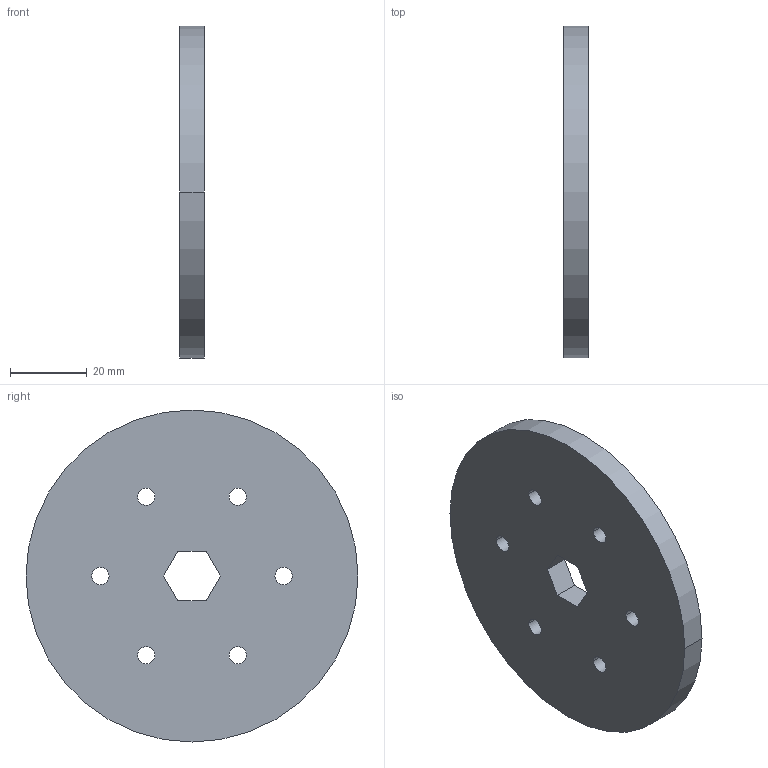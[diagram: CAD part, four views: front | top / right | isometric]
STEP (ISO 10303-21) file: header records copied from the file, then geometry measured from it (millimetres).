
FILE_DESCRIPTION (( 'STEP AP214' ), '1' );
FILE_NAME ('KB-26012_ Launcher Flywheel_1.step', '2025-12-23T15:52:36', ( '' ), ( '' ), 'SwSTEP 2.0', 'SolidWorks 2026', '' );
FILE_SCHEMA (( 'AUTOMOTIVE_DESIGN' ));
Length unit declared in the file: inch
Products named in the file (1): KB-26012_ Launcher Flywheel_1
Bounding box: 6.35 x 86.36 x 86.36 mm (x, y, z)
Volume: 35685.7 mm3; surface area: 13782.7 mm2
Topology: 1 solids, 1 shells, 22 faces, 60 edges, 40 vertices
Faces by surface type: cylinder 14, plane 8
Entity records: 767 total; most frequent: DIRECTION 134, CARTESIAN_POINT 123, ORIENTED_EDGE 120, EDGE_CURVE 60, AXIS2_PLACEMENT_3D 51, VERTEX_POINT 40, EDGE_LOOP 36, LINE 32
